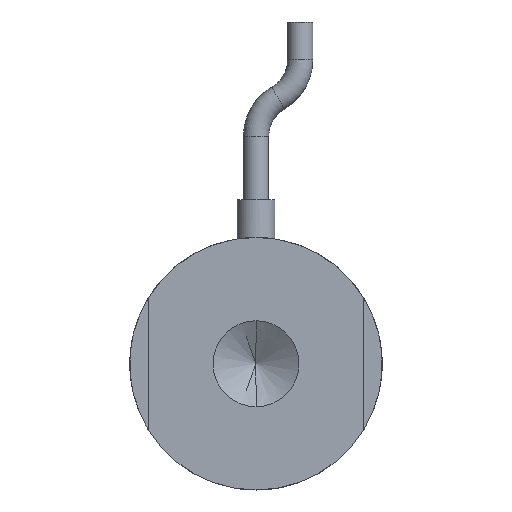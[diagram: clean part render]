
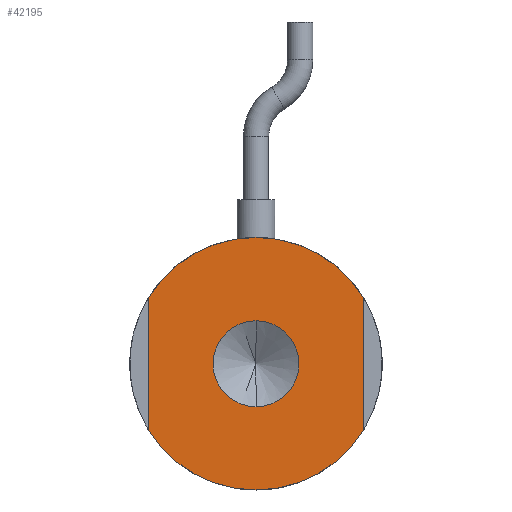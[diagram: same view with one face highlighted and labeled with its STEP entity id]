
A CAD part, front view. The second image highlights one B-rep face of the part: STEP entity #42195.
In plain terms, the highlighted planar face has unit normal (0, -1, 0).
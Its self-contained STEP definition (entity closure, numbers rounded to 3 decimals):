
#3226 = VERTEX_POINT ( 'NONE', #27722 ) ;
#3241 = DIRECTION ( 'NONE',  ( 0., 0., 1. ) ) ;
#4039 = VECTOR ( 'NONE', #43271, 1000. ) ;
#4271 = CARTESIAN_POINT ( 'NONE',  ( 0., 0., 0. ) ) ;
#4874 = EDGE_CURVE ( 'NONE', #18921, #37224, #23485, .T. ) ;
#5692 = VERTEX_POINT ( 'NONE', #11878 ) ;
#6468 = EDGE_CURVE ( 'NONE', #3226, #18086, #13229, .T. ) ;
#7748 = DIRECTION ( 'NONE',  ( 0., 1., 0. ) ) ;
#7832 = EDGE_CURVE ( 'NONE', #12020, #5692, #23399, .T. ) ;
#8381 = EDGE_CURVE ( 'NONE', #42127, #12020, #36222, .T. ) ;
#8993 = CARTESIAN_POINT ( 'NONE',  ( -8.5, 0., 0. ) ) ;
#10645 = ORIENTED_EDGE ( 'NONE', *, *, #8381, .F. ) ;
#11856 = ORIENTED_EDGE ( 'NONE', *, *, #6468, .F. ) ;
#11878 = CARTESIAN_POINT ( 'NONE',  ( 8.5, 0., -5.268 ) ) ;
#12020 = VERTEX_POINT ( 'NONE', #29459 ) ;
#12192 = DIRECTION ( 'NONE',  ( 0., 1., 0. ) ) ;
#12904 = FACE_OUTER_BOUND ( 'NONE', #29082, .T. ) ;
#13229 = LINE ( 'NONE', #8993, #4039 ) ;
#13377 = ORIENTED_EDGE ( 'NONE', *, *, #23368, .F. ) ;
#16467 = DIRECTION ( 'NONE',  ( 0., 1., 0. ) ) ;
#17568 = DIRECTION ( 'NONE',  ( 0., -1., 0. ) ) ;
#18007 = AXIS2_PLACEMENT_3D ( 'NONE', #4271, #7748, #31818 ) ;
#18086 = VERTEX_POINT ( 'NONE', #20201 ) ;
#18220 = CIRCLE ( 'NONE', #26207, 10. ) ;
#18323 = ORIENTED_EDGE ( 'NONE', *, *, #29427, .F. ) ;
#18614 = CARTESIAN_POINT ( 'NONE',  ( 8.5, 0., 0. ) ) ;
#18921 = VERTEX_POINT ( 'NONE', #39969 ) ;
#18977 = ORIENTED_EDGE ( 'NONE', *, *, #33995, .F. ) ;
#19480 = ORIENTED_EDGE ( 'NONE', *, *, #4874, .F. ) ;
#20075 = CARTESIAN_POINT ( 'NONE',  ( 0., 0., 0. ) ) ;
#20201 = CARTESIAN_POINT ( 'NONE',  ( -8.5, 0., 5.268 ) ) ;
#21471 = CIRCLE ( 'NONE', #34755, 10. ) ;
#21694 = EDGE_CURVE ( 'NONE', #33007, #3226, #42828, .T. ) ;
#22090 = FACE_BOUND ( 'NONE', #38425, .T. ) ;
#23368 = EDGE_CURVE ( 'NONE', #18086, #42127, #21471, .T. ) ;
#23399 = LINE ( 'NONE', #18614, #33586 ) ;
#23481 = DIRECTION ( 'NONE',  ( 0., 0., 1. ) ) ;
#23485 = CIRCLE ( 'NONE', #37882, 3.4 ) ;
#23678 = DIRECTION ( 'NONE',  ( 0., 0., -1. ) ) ;
#23877 = DIRECTION ( 'NONE',  ( 0., 1., 0. ) ) ;
#26207 = AXIS2_PLACEMENT_3D ( 'NONE', #20075, #43887, #23481 ) ;
#27722 = CARTESIAN_POINT ( 'NONE',  ( -8.5, 0., -5.268 ) ) ;
#28218 = PLANE ( 'NONE',  #18007 ) ;
#29080 = CARTESIAN_POINT ( 'NONE',  ( 0., 0., -10. ) ) ;
#29082 = EDGE_LOOP ( 'NONE', ( #11856, #39265, #18323, #34340, #10645, #13377 ) ) ;
#29427 = EDGE_CURVE ( 'NONE', #5692, #33007, #18220, .T. ) ;
#29459 = CARTESIAN_POINT ( 'NONE',  ( 8.5, 0., 5.268 ) ) ;
#31818 = DIRECTION ( 'NONE',  ( 0., 0., 1. ) ) ;
#32774 = CARTESIAN_POINT ( 'NONE',  ( 0., 0., 0. ) ) ;
#33007 = VERTEX_POINT ( 'NONE', #29080 ) ;
#33586 = VECTOR ( 'NONE', #42431, 1000. ) ;
#33880 = DIRECTION ( 'NONE',  ( 0., -1., 0. ) ) ;
#33995 = EDGE_CURVE ( 'NONE', #37224, #18921, #38347, .T. ) ;
#34340 = ORIENTED_EDGE ( 'NONE', *, *, #7832, .F. ) ;
#34755 = AXIS2_PLACEMENT_3D ( 'NONE', #32774, #12192, #36180 ) ;
#35014 = AXIS2_PLACEMENT_3D ( 'NONE', #36908, #16467, #40314 ) ;
#35686 = AXIS2_PLACEMENT_3D ( 'NONE', #44296, #23877, #3241 ) ;
#36180 = DIRECTION ( 'NONE',  ( 0., 0., 1. ) ) ;
#36222 = CIRCLE ( 'NONE', #35686, 10. ) ;
#36908 = CARTESIAN_POINT ( 'NONE',  ( 0., 0., 0. ) ) ;
#37224 = VERTEX_POINT ( 'NONE', #41047 ) ;
#37882 = AXIS2_PLACEMENT_3D ( 'NONE', #40699, #33880, #23678 ) ;
#37989 = CARTESIAN_POINT ( 'NONE',  ( 0., 0., 0. ) ) ;
#38049 = CARTESIAN_POINT ( 'NONE',  ( 0., 0., 10. ) ) ;
#38347 = CIRCLE ( 'NONE', #38576, 3.4 ) ;
#38425 = EDGE_LOOP ( 'NONE', ( #18977, #19480 ) ) ;
#38576 = AXIS2_PLACEMENT_3D ( 'NONE', #37989, #17568, #41413 ) ;
#39265 = ORIENTED_EDGE ( 'NONE', *, *, #21694, .F. ) ;
#39969 = CARTESIAN_POINT ( 'NONE',  ( 0., 0., 3.4 ) ) ;
#40314 = DIRECTION ( 'NONE',  ( 0., 0., 1. ) ) ;
#40699 = CARTESIAN_POINT ( 'NONE',  ( 0., 0., 0. ) ) ;
#41047 = CARTESIAN_POINT ( 'NONE',  ( 0., 0., -3.4 ) ) ;
#41413 = DIRECTION ( 'NONE',  ( 0., 0., -1. ) ) ;
#42127 = VERTEX_POINT ( 'NONE', #38049 ) ;
#42195 = ADVANCED_FACE ( 'NONE', ( #22090, #12904 ), #28218, .F. ) ;
#42431 = DIRECTION ( 'NONE',  ( 0., 0., -1. ) ) ;
#42828 = CIRCLE ( 'NONE', #35014, 10. ) ;
#43271 = DIRECTION ( 'NONE',  ( 0., 0., 1. ) ) ;
#43887 = DIRECTION ( 'NONE',  ( 0., 1., 0. ) ) ;
#44296 = CARTESIAN_POINT ( 'NONE',  ( 0., 0., 0. ) ) ;
